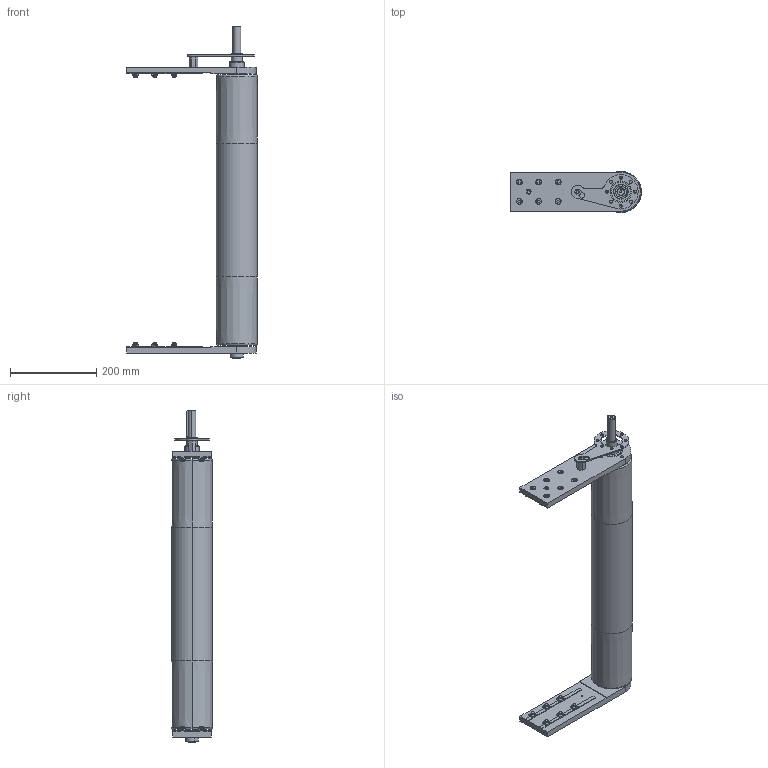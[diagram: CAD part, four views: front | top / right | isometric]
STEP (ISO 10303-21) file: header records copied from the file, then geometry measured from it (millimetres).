
FILE_DESCRIPTION (( 'STEP AP203' ), '1' );
FILE_NAME ('084.095.KD.44.600.STEP', '2015-11-12T10:03:18', ( '' ), ( '' ), 'SwSTEP 2.0', 'SolidWorks 2012', '' );
FILE_SCHEMA (( 'CONFIG_CONTROL_DESIGN' ));
Length unit declared in the file: millimetre
Products named in the file (1): 084.095.KD.44.600
Bounding box: 302.5 x 95 x 768.5 mm (x, y, z)
Surface area: 380779.6 mm2 (no closed solid volume)
Topology: 0 solids, 51 shells, 553 faces, 1718 edges, 1202 vertices
Faces by surface type: plane 306, cylinder 144, torus 52, cone 38, bspline 11, sphere 2
Entity records: 20270 total; most frequent: CARTESIAN_POINT 4891, DIRECTION 3257, ORIENTED_EDGE 2870, EDGE_CURVE 1714, VERTEX_POINT 1200, AXIS2_PLACEMENT_3D 1198, VECTOR 861, LINE 861
